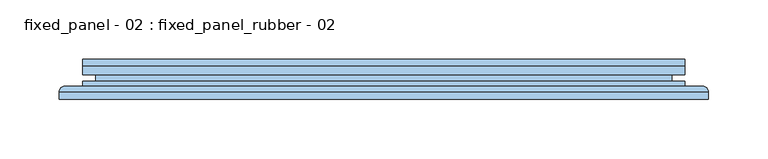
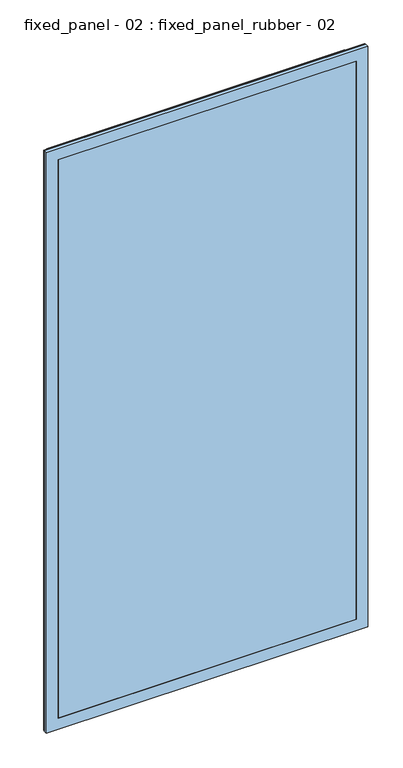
"""IFC4 building model written with IfcOpenShell, lengths in millimetres: window geometry, fixed_panel - 02 : fixed_panel_rubber - 02."""

from ifc_helpers import new_model, si_unit, frame, origin, place, context, project, spatial, polyline, ellipse_curve, outline, extrude, faceted_brep, source, transform, mapped, element, save
from ifc_brep_helpers import plane_surface, cylinder_surface, advanced_brep


def fixed_panel_02_fixed_panel_rubber_02_e0af49cf(model_context):
    return source(origin(), model_context, "Body", "SolidModel", [
        advanced_brep(
        [(255.001939, -27.9878211, 989.9842035), (260.001939, -22.9878211, 994.9842035), (260.001939, -22.9878211, -25.0), (255.001939, -27.9878211, -20.0), (269.999617, -22.9878211, -34.9976779), (-269.999617, -22.9878211, -34.9976779), (-269.999617, -22.9878211, 1004.9818814), (269.999617, -22.9878211, 1004.9818814), (-260.001939, -22.9878211, 994.9842035), (-260.001939, -22.9878211, -25.0), (-255.001939, -27.9878211, -20.0), (255.001939, -34.0, 989.9842035), (255.001939, -34.0, -20.0), (-255.001939, -34.0, -20.0), (274.9952925, -34.0, 1009.977557), (-274.9952925, -34.0, 1009.977557), (-274.9952925, -34.0, -39.9933535), (274.9952925, -34.0, -39.9933535), (-255.001939, -34.0, 989.9842035), (274.9952925, -27.9834967, 1009.977557), (274.9952925, -27.9834967, -39.9933535), (-274.9952925, -27.9834967, -39.9933535), (-255.001939, -27.9878211, 989.9842035), (-274.9952925, -27.9834967, 1009.977557)],
        [
            (0, 1, ellipse_curve(frame((260.001939, -27.9878211, 994.9842035), z_axis=(0.7071067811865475, 0.0, -0.7071067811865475), x_axis=(0.7071067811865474, 0.0, 0.7071067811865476)), 7.0710678, 5.0)),
            (1, 2),
            (2, 3, ellipse_curve(frame((260.001939, -27.9878211, -25.0), z_axis=(0.7071067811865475, 0.0, 0.7071067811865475), x_axis=(-0.7071067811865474, 0.0, 0.7071067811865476)), 7.0710678, 5.0)),
            (3, 0),
            (4, 5),
            (5, 6),
            (6, 7),
            (7, 4),
            (1, 8),
            (8, 9),
            (9, 2),
            (9, 10, ellipse_curve(frame((-260.001939, -27.9878211, -25.0), z_axis=(0.7071067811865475, 0.0, -0.7071067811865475), x_axis=(0.7071067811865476, 0.0, 0.7071067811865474)), 7.0710678, 5.0)),
            (10, 3),
            (11, 0),
            (3, 12),
            (12, 11),
            (10, 13),
            (13, 12),
            (14, 15),
            (15, 16),
            (16, 17),
            (17, 14),
            (13, 18),
            (18, 11),
            (19, 14),
            (17, 20),
            (20, 19),
            (16, 21),
            (21, 20),
            (7, 19, ellipse_curve(frame((269.999617, -27.9834967, 1004.9818814), z_axis=(0.7071067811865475, 0.0, -0.7071067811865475), x_axis=(0.7071067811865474, 0.0, 0.7071067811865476)), 7.0649521, 4.9956756)),
            (20, 4, ellipse_curve(frame((269.999617, -27.9834967, -34.9976779), z_axis=(0.7071067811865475, 0.0, 0.7071067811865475), x_axis=(-0.7071067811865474, 0.0, 0.7071067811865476)), 7.0649521, 4.9956756)),
            (21, 5, ellipse_curve(frame((-269.999617, -27.9834967, -34.9976779), z_axis=(0.7071067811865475, 0.0, -0.7071067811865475), x_axis=(0.7071067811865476, 0.0, 0.7071067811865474)), 7.0649521, 4.9956756)),
            (8, 22, ellipse_curve(frame((-260.001939, -27.9878211, 994.9842035), z_axis=(-0.7071067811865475, 0.0, -0.7071067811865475), x_axis=(0.7071067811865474, 0.0, -0.7071067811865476)), 7.0710678, 5.0)),
            (22, 10),
            (22, 18),
            (15, 23),
            (23, 21),
            (23, 6, ellipse_curve(frame((-269.999617, -27.9834967, 1004.9818814), z_axis=(-0.7071067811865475, 0.0, -0.7071067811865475), x_axis=(0.7071067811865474, 0.0, -0.7071067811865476)), 7.0649521, 4.9956756)),
            (0, 22),
            (19, 23),
        ],
        [
            cylinder_surface(frame((260.001939, -27.9878211, 989.9842035), z_axis=(0.0, 0.0, 1.0), x_axis=(1.0, 0.0, 0.0)), 5.0),
            plane_surface(frame((-269.999617, -22.9878211, 1004.9818814), z_axis=(0.0, 1.0, 0.0), x_axis=(1.0, 0.0, 0.0))),
            cylinder_surface(frame((255.001939, -27.9878211, -25.0), z_axis=(1.0, 0.0, 0.0), x_axis=(0.0, 0.0, -1.0)), 5.0),
            plane_surface(frame((255.001939, -27.9878211, 989.9842035), z_axis=(-1.0, 0.0, 0.0), x_axis=(0.0, 0.0, -1.0))),
            plane_surface(frame((255.001939, -27.9878211, -20.0), z_axis=(0.0, 0.0, 1.0), x_axis=(-1.0, 0.0, 0.0))),
            plane_surface(frame((-255.001939, -34.0, 989.9842035), z_axis=(0.0, -1.0, 0.0), x_axis=(1.0, 0.0, 0.0))),
            plane_surface(frame((274.9952925, -34.0, 1009.977557), z_axis=(1.0, 0.0, 0.0), x_axis=(0.0, 0.0, -1.0))),
            plane_surface(frame((274.9952925, -34.0, -39.9933535), z_axis=(0.0, 0.0, -1.0), x_axis=(-1.0, 0.0, 0.0))),
            cylinder_surface(frame((269.999617, -27.9834967, 989.9842035), z_axis=(0.0, 0.0, 1.0), x_axis=(1.0, 0.0, 0.0)), 4.9956756),
            cylinder_surface(frame((255.001939, -27.9834967, -34.9976779), z_axis=(1.0, 0.0, 0.0), x_axis=(0.0, 0.0, -1.0)), 4.9956756),
            cylinder_surface(frame((-260.001939, -27.9878211, -20.0), z_axis=(0.0, 0.0, -1.0), x_axis=(-1.0, 0.0, 0.0)), 5.0),
            plane_surface(frame((-255.001939, -27.9878211, -20.0), z_axis=(1.0, 0.0, 0.0), x_axis=(0.0, 0.0, 1.0))),
            plane_surface(frame((-274.9952925, -34.0, -39.9933535), z_axis=(-1.0, 0.0, 0.0), x_axis=(0.0, 0.0, 1.0))),
            cylinder_surface(frame((-269.999617, -27.9834967, -20.0), z_axis=(0.0, 0.0, -1.0), x_axis=(-1.0, 0.0, 0.0)), 4.9956756),
            cylinder_surface(frame((-255.001939, -27.9878211, 994.9842035), z_axis=(-1.0, 0.0, 0.0), x_axis=(0.0, 0.0, 1.0)), 5.0),
            plane_surface(frame((-255.001939, -27.9878211, 989.9842035), z_axis=(0.0, 0.0, -1.0), x_axis=(1.0, 0.0, 0.0))),
            plane_surface(frame((-274.9952925, -34.0, 1009.977557), z_axis=(0.0, 0.0, 1.0), x_axis=(1.0, 0.0, 0.0))),
            cylinder_surface(frame((-255.001939, -27.9834967, 1004.9818814), z_axis=(-1.0, 0.0, 0.0), x_axis=(0.0, 0.0, 1.0)), 4.9956756),
        ],
        [
            (0, [[1, 2, 3, 4]]),
            (1, [[5, 6, 7, 8], [9, 10, 11, -2]]),
            (2, [[-3, -11, 12, 13]]),
            (3, [[14, -4, 15, 16]]),
            (4, [[-15, -13, 17, 18]]),
            (5, [[19, 20, 21, 22], [-18, 23, 24, -16]]),
            (6, [[25, -22, 26, 27]]),
            (7, [[-26, -21, 28, 29]]),
            (8, [[30, -27, 31, -8]]),
            (9, [[-31, -29, 32, -5]]),
            (10, [[-12, -10, 33, 34]]),
            (11, [[-17, -34, 35, -23]]),
            (12, [[-28, -20, 36, 37]]),
            (13, [[-32, -37, 38, -6]]),
            (14, [[-33, -9, -1, 39]]),
            (15, [[-35, -39, -14, -24]]),
            (16, [[-36, -19, -25, 40]]),
            (17, [[-38, -40, -30, -7]]),
        ],
    ),
        faceted_brep([(229.001939, -26.0, 963.9842035), (229.001939, -6.0, 963.9842035), (229.001939, -6.0, 6.0), (229.001939, -26.0, 6.0), (255.001939, -6.0, -20.0), (-255.001939, -6.0, -20.0), (-255.001939, -6.0, 989.9842035), (255.001939, -6.0, 989.9842035), (-229.001939, -6.0, 963.9842035), (-229.001939, -6.0, 6.0), (-229.001939, -26.0, 6.0), (255.001939, -26.0, 989.9842035), (-255.001939, -26.0, 989.9842035), (-255.001939, -26.0, -20.0), (255.001939, -26.0, -20.0), (-229.001939, -26.0, 963.9842035), (255.001939, -18.8, 989.9842035), (255.001939, -18.8, -20.0), (-255.001939, -18.8, -20.0), (-255.001939, -18.8, 989.9842035), (244.001939, -18.8, 978.9842035), (-244.001939, -18.8, 978.9842035), (-244.001939, -18.8, -9.0), (244.001939, -18.8, -9.0), (244.001939, -13.2, 978.9842035), (244.001939, -13.2, -9.0), (-244.001939, -13.2, -9.0), (255.001939, -13.2, 989.9842035), (-255.001939, -13.2, 989.9842035), (-255.001939, -13.2, -20.0), (255.001939, -13.2, -20.0), (-244.001939, -13.2, 978.9842035)], [[[0, 1, 2, 3]], [[4, 5, 6, 7], [1, 8, 9, 2]], [[3, 2, 9, 10]], [[11, 12, 13, 14], [3, 10, 15, 0]], [[16, 11, 14, 17]], [[17, 14, 13, 18]], [[17, 18, 19, 16], [20, 21, 22, 23]], [[24, 20, 23, 25]], [[25, 23, 22, 26]], [[27, 28, 29, 30], [25, 26, 31, 24]], [[7, 27, 30, 4]], [[4, 30, 29, 5]], [[10, 9, 8, 15]], [[18, 13, 12, 19]], [[26, 22, 21, 31]], [[5, 29, 28, 6]], [[15, 8, 1, 0]], [[19, 12, 11, 16]], [[31, 21, 20, 24]], [[6, 28, 27, 7]]]),
        extrude(outline(polyline([(255.001939, -34.0), (-255.001939, -34.0), (-255.001939, -26.0), (255.001939, -26.0), (255.001939, -34.0)])), frame((0.0, 0.0, -20.0), z_axis=(0.0, 0.0, 1.0), x_axis=(1.0, 0.0, 0.0)), (0.0, 0.0, 1.0), 1009.9842035),
        extrude(outline(polyline([(255.001939, -6.0), (-255.001939, -6.0), (-255.001939, 0.0), (255.001939, 0.0), (255.001939, -6.0)])), frame((0.0, 0.0, -20.0), z_axis=(0.0, 0.0, 1.0), x_axis=(1.0, 0.0, 0.0)), (0.0, 0.0, 1.0), 1009.9842035),
    ])


if __name__ == "__main__":
    model = new_model("IFC4")
    model_context = context("Model", 3, world=origin())
    ifc_project = project(units=[si_unit("LENGTHUNIT", "METRE", prefix="MILLI")], contexts=[model_context])
    site = spatial("IfcSite", under=ifc_project)
    building = spatial("IfcBuilding", under=site)
    placement = place(None, origin())
    fixed_panel_02_fixed_panel_rubber_02_shape = fixed_panel_02_fixed_panel_rubber_02_e0af49cf(model_context)
    element("IfcWindow", 1, ObjectType="fixed_panel - 02 : fixed_panel_rubber - 02", at=placement, inside=building, context=model_context, shape_type="MappedRepresentation", body=[
        mapped(fixed_panel_02_fixed_panel_rubber_02_shape, transform((0.0, 0.0, 0.0), x_axis=(1.0, 0.0, 0.0), y_axis=(0.0, 1.0, 0.0), z_axis=(0.0, 0.0, 1.0))),
    ])
    save(model, "model.ifc")
